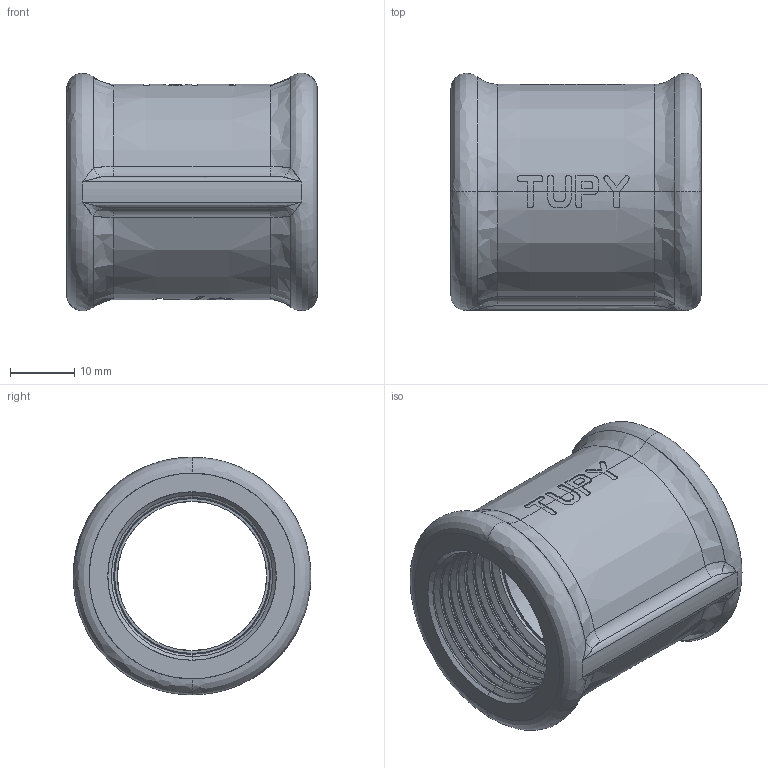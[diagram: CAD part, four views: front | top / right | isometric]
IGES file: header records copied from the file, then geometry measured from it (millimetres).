
Start section: SolidWorks IGES file using analytic representation for surfaces
Global section: file name: C:\Users\Joel Rosa\Desktop\Tubulação\12-36-OK\12-36-006.IGS; native system: SolidWorks 2011; preprocessor: SolidWorks 2011; author: Joel Rosa; date: 131216.201333; units: millimetre
Bounding box: 39 x 36.99 x 37 mm (x, y, z)
Surface area: 9935.1 mm2 (no closed solid volume)
Topology: 0 solids, 0 shells, 304 faces, 2788 edges, 2788 vertices
Faces by surface type: bspline 207, revolution 97
